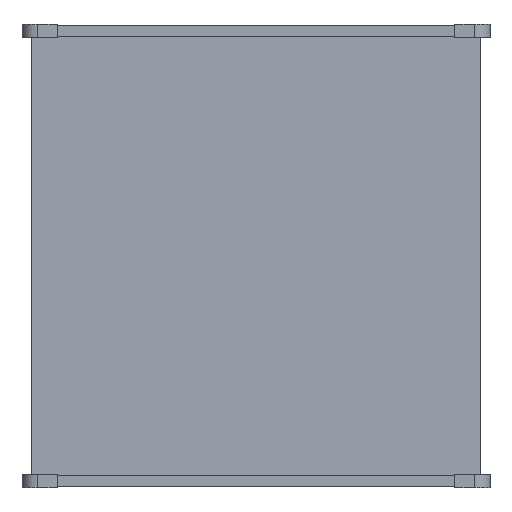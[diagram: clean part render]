
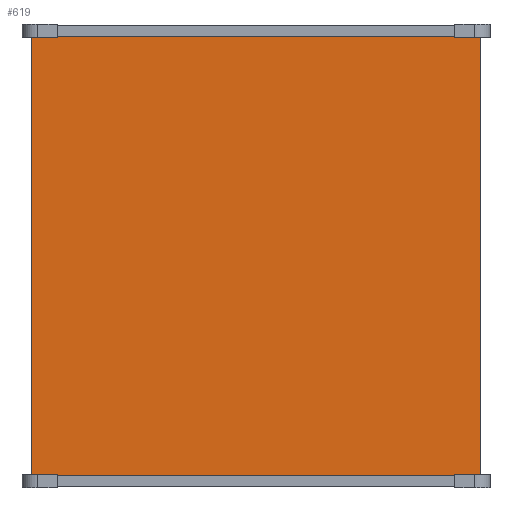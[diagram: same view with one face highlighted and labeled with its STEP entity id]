
A CAD part, front view. The second image highlights one B-rep face of the part: STEP entity #619.
In plain terms, the highlighted planar face has unit normal (0, -1, 0).
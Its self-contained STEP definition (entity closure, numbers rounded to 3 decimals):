
#619=ADVANCED_FACE('',(#1326),#1327,.F.);
#1326=FACE_OUTER_BOUND('',#2127,.T.);
#1327=PLANE('',#2128);
#2127=EDGE_LOOP('',(#4072,#4073,#4074,#4075,#4076,#4077,#4078,#4079,#4080,#4081,#4082,#4083));
#2128=AXIS2_PLACEMENT_3D('',#4084,#4085,#4086);
#4072=ORIENTED_EDGE('',*,*,#5656,.T.);
#4073=ORIENTED_EDGE('',*,*,#5629,.T.);
#4074=ORIENTED_EDGE('',*,*,#5683,.T.);
#4075=ORIENTED_EDGE('',*,*,#5684,.T.);
#4076=ORIENTED_EDGE('',*,*,#5685,.T.);
#4077=ORIENTED_EDGE('',*,*,#5686,.T.);
#4078=ORIENTED_EDGE('',*,*,#5687,.T.);
#4079=ORIENTED_EDGE('',*,*,#5688,.T.);
#4080=ORIENTED_EDGE('',*,*,#5689,.F.);
#4081=ORIENTED_EDGE('',*,*,#5690,.T.);
#4082=ORIENTED_EDGE('',*,*,#5691,.T.);
#4083=ORIENTED_EDGE('',*,*,#5680,.T.);
#4084=CARTESIAN_POINT('',(0.,-128.96,-267.5));
#4085=DIRECTION('',(0.,1.0,0.0));
#4086=DIRECTION('',(0.,0.,1.0));
#5629=EDGE_CURVE('',#7023,#7024,#7025,.T.);
#5656=EDGE_CURVE('',#7063,#7023,#7064,.T.);
#5680=EDGE_CURVE('',#7099,#7063,#7100,.T.);
#5683=EDGE_CURVE('',#7024,#7103,#7104,.T.);
#5684=EDGE_CURVE('',#7103,#7105,#7106,.T.);
#5685=EDGE_CURVE('',#7105,#7107,#7108,.T.);
#5686=EDGE_CURVE('',#7107,#7109,#7110,.T.);
#5687=EDGE_CURVE('',#7109,#7111,#7112,.T.);
#5688=EDGE_CURVE('',#7111,#7113,#7114,.T.);
#5689=EDGE_CURVE('',#7115,#7113,#7116,.T.);
#5690=EDGE_CURVE('',#7115,#7117,#7118,.T.);
#5691=EDGE_CURVE('',#7117,#7099,#7119,.T.);
#7023=VERTEX_POINT('',#8885);
#7024=VERTEX_POINT('',#8886);
#7025=LINE('',#8887,#8888);
#7063=VERTEX_POINT('',#8940);
#7064=LINE('',#8941,#8942);
#7099=VERTEX_POINT('',#8994);
#7100=LINE('',#8995,#8996);
#7103=VERTEX_POINT('',#9000);
#7104=LINE('',#9001,#9002);
#7105=VERTEX_POINT('',#9003);
#7106=LINE('',#9004,#9005);
#7107=VERTEX_POINT('',#9006);
#7108=LINE('',#9007,#9008);
#7109=VERTEX_POINT('',#9009);
#7110=LINE('',#9010,#9011);
#7111=VERTEX_POINT('',#9012);
#7112=LINE('',#9013,#9014);
#7113=VERTEX_POINT('',#9015);
#7114=LINE('',#9016,#9017);
#7115=VERTEX_POINT('',#9018);
#7116=LINE('',#9019,#9020);
#7117=VERTEX_POINT('',#9021);
#7118=LINE('',#9022,#9023);
#7119=LINE('',#9024,#9025);
#8885=CARTESIAN_POINT('',(230.0,-128.96,-520.625));
#8886=CARTESIAN_POINT('',(260.0,-128.96,-520.625));
#8887=CARTESIAN_POINT('',(125.25,-128.96,-520.625));
#8888=VECTOR('',#10617,1.0);
#8940=CARTESIAN_POINT('',(230.0,-128.96,-521.625));
#8941=CARTESIAN_POINT('',(230.0,-128.96,-397.906));
#8942=VECTOR('',#10650,1.0);
#8994=CARTESIAN_POINT('',(-230.0,-128.96,-521.625));
#8995=CARTESIAN_POINT('',(0.,-128.96,-521.625));
#8996=VECTOR('',#10668,1.0);
#9000=CARTESIAN_POINT('',(260.0,-128.96,-14.375));
#9001=CARTESIAN_POINT('',(260.0,-128.96,-267.5));
#9002=VECTOR('',#10670,1.0);
#9003=CARTESIAN_POINT('',(230.0,-128.96,-14.375));
#9004=CARTESIAN_POINT('',(125.25,-128.96,-14.375));
#9005=VECTOR('',#10671,1.0);
#9006=CARTESIAN_POINT('',(230.0,-128.96,-13.375));
#9007=CARTESIAN_POINT('',(230.0,-128.96,-137.094));
#9008=VECTOR('',#10672,1.0);
#9009=CARTESIAN_POINT('',(-230.0,-128.96,-13.375));
#9010=CARTESIAN_POINT('',(0.,-128.96,-13.375));
#9011=VECTOR('',#10673,1.0);
#9012=CARTESIAN_POINT('',(-230.0,-128.96,-14.375));
#9013=CARTESIAN_POINT('',(-230.0,-128.96,-137.094));
#9014=VECTOR('',#10674,1.0);
#9015=CARTESIAN_POINT('',(-260.0,-128.96,-14.375));
#9016=CARTESIAN_POINT('',(-125.25,-128.96,-14.375));
#9017=VECTOR('',#10675,1.0);
#9018=CARTESIAN_POINT('',(-260.0,-128.96,-520.625));
#9019=CARTESIAN_POINT('',(-260.0,-128.96,-267.5));
#9020=VECTOR('',#10676,1.0);
#9021=CARTESIAN_POINT('',(-230.0,-128.96,-520.625));
#9022=CARTESIAN_POINT('',(-125.25,-128.96,-520.625));
#9023=VECTOR('',#10677,1.0);
#9024=CARTESIAN_POINT('',(-230.0,-128.96,-397.906));
#9025=VECTOR('',#10678,1.0);
#10617=DIRECTION('',(1.0,0.,0.0));
#10650=DIRECTION('',(0.0,0.0,1.0));
#10668=DIRECTION('',(1.0,0.,0.));
#10670=DIRECTION('',(0.,0.,1.0));
#10671=DIRECTION('',(-1.0,0.,0.0));
#10672=DIRECTION('',(0.0,0.0,1.0));
#10673=DIRECTION('',(-1.0,0.,0.));
#10674=DIRECTION('',(0.,0.,-1.0));
#10675=DIRECTION('',(-1.0,0.,0.));
#10676=DIRECTION('',(0.,0.,1.0));
#10677=DIRECTION('',(1.0,0.,0.));
#10678=DIRECTION('',(0.,0.,-1.0));
